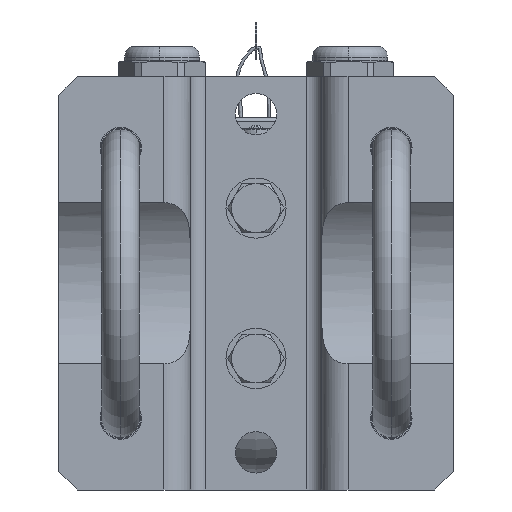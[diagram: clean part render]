
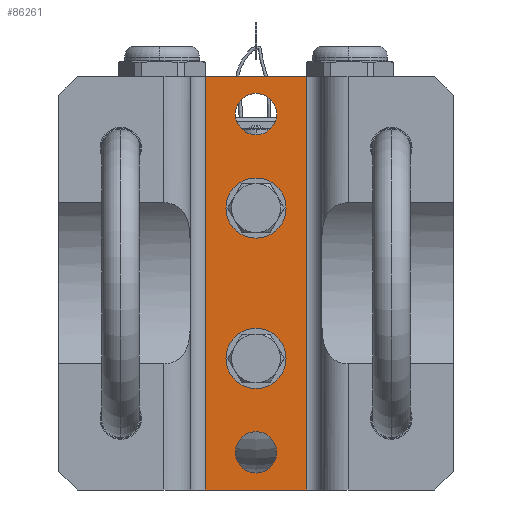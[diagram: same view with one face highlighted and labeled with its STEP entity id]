
A CAD part, front view. The second image highlights one B-rep face of the part: STEP entity #86261.
In plain terms, the highlighted planar face has unit normal (0, -1, 0).
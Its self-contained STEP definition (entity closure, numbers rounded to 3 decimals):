
#84088=DIRECTION('',(-1.,0.,0.));
#84089=VECTOR('',#84088,27.);
#84090=CARTESIAN_POINT('',(13.5,-30.,55.));
#84091=LINE('',#84090,#84089);
#84429=DIRECTION('',(-1.,0.,0.));
#84430=VECTOR('',#84429,27.);
#84431=CARTESIAN_POINT('',(13.5,-30.,-55.));
#84432=LINE('',#84431,#84430);
#84823=DIRECTION('',(0.,0.,-1.));
#84824=VECTOR('',#84823,110.);
#84825=CARTESIAN_POINT('',(-13.5,-30.,55.));
#84826=LINE('',#84825,#84824);
#84827=DIRECTION('',(0.,0.,-1.));
#84828=VECTOR('',#84827,110.);
#84829=CARTESIAN_POINT('',(13.5,-30.,55.));
#84830=LINE('',#84829,#84828);
#84831=CARTESIAN_POINT('',(0.,-30.,20.));
#84832=DIRECTION('',(0.,1.,0.));
#84833=DIRECTION('',(-1.,0.,0.));
#84834=AXIS2_PLACEMENT_3D('',#84831,#84832,#84833);
#84836=CARTESIAN_POINT('',(0.,-30.,20.));
#84837=DIRECTION('',(0.,1.,0.));
#84838=DIRECTION('',(1.,0.,0.));
#84839=AXIS2_PLACEMENT_3D('',#84836,#84837,#84838);
#84841=CARTESIAN_POINT('',(0.,-30.,-20.));
#84842=DIRECTION('',(0.,1.,0.));
#84843=DIRECTION('',(-1.,0.,0.));
#84844=AXIS2_PLACEMENT_3D('',#84841,#84842,#84843);
#84846=CARTESIAN_POINT('',(0.,-30.,-20.));
#84847=DIRECTION('',(0.,1.,0.));
#84848=DIRECTION('',(1.,0.,0.));
#84849=AXIS2_PLACEMENT_3D('',#84846,#84847,#84848);
#84851=CARTESIAN_POINT('',(0.,-30.,45.));
#84852=DIRECTION('',(0.,-1.,0.));
#84853=DIRECTION('',(-1.,0.,0.));
#84854=AXIS2_PLACEMENT_3D('',#84851,#84852,#84853);
#84856=CARTESIAN_POINT('',(0.,-30.,45.));
#84857=DIRECTION('',(0.,-1.,0.));
#84858=DIRECTION('',(1.,0.,0.));
#84859=AXIS2_PLACEMENT_3D('',#84856,#84857,#84858);
#84861=CARTESIAN_POINT('',(0.,-30.,-45.));
#84862=DIRECTION('',(0.,-1.,0.));
#84863=DIRECTION('',(-1.,0.,0.));
#84864=AXIS2_PLACEMENT_3D('',#84861,#84862,#84863);
#84866=CARTESIAN_POINT('',(0.,-30.,-45.));
#84867=DIRECTION('',(0.,-1.,0.));
#84868=DIRECTION('',(1.,0.,0.));
#84869=AXIS2_PLACEMENT_3D('',#84866,#84867,#84868);
#84943=CARTESIAN_POINT('',(-13.5,-30.,55.));
#84944=CARTESIAN_POINT('',(-13.5,-30.,-55.));
#84945=VERTEX_POINT('',#84943);
#84946=VERTEX_POINT('',#84944);
#84947=CARTESIAN_POINT('',(13.5,-30.,55.));
#84948=CARTESIAN_POINT('',(13.5,-30.,-55.));
#84949=VERTEX_POINT('',#84947);
#84950=VERTEX_POINT('',#84948);
#85127=CARTESIAN_POINT('',(-5.5,-30.,45.));
#85128=CARTESIAN_POINT('',(5.5,-30.,45.));
#85129=VERTEX_POINT('',#85127);
#85130=VERTEX_POINT('',#85128);
#85135=CARTESIAN_POINT('',(-5.5,-30.,-45.));
#85136=CARTESIAN_POINT('',(5.5,-30.,-45.));
#85137=VERTEX_POINT('',#85135);
#85138=VERTEX_POINT('',#85136);
#85143=CARTESIAN_POINT('',(-5.,-30.,20.));
#85144=CARTESIAN_POINT('',(5.,-30.,20.));
#85145=VERTEX_POINT('',#85143);
#85146=VERTEX_POINT('',#85144);
#85147=CARTESIAN_POINT('',(-5.,-30.,-20.));
#85148=CARTESIAN_POINT('',(5.,-30.,-20.));
#85149=VERTEX_POINT('',#85147);
#85150=VERTEX_POINT('',#85148);
#86225=CARTESIAN_POINT('',(17.5,-30.,55.));
#86226=DIRECTION('',(0.,-1.,0.));
#86227=DIRECTION('',(-1.,0.,0.));
#86228=AXIS2_PLACEMENT_3D('',#86225,#86226,#86227);
#86229=PLANE('',#86228);
#86231=ORIENTED_EDGE('',*,*,#86230,.F.);
#86232=ORIENTED_EDGE('',*,*,#85194,.F.);
#86234=ORIENTED_EDGE('',*,*,#86233,.T.);
#86235=ORIENTED_EDGE('',*,*,#85561,.T.);
#86236=EDGE_LOOP('',(#86231,#86232,#86234,#86235));
#86237=FACE_OUTER_BOUND('',#86236,.F.);
#86238=ORIENTED_EDGE('',*,*,#86215,.F.);
#86240=ORIENTED_EDGE('',*,*,#86239,.F.);
#86241=EDGE_LOOP('',(#86238,#86240));
#86242=FACE_BOUND('',#86241,.F.);
#86244=ORIENTED_EDGE('',*,*,#86243,.F.);
#86246=ORIENTED_EDGE('',*,*,#86245,.F.);
#86247=EDGE_LOOP('',(#86244,#86246));
#86248=FACE_BOUND('',#86247,.F.);
#86250=ORIENTED_EDGE('',*,*,#86249,.T.);
#86252=ORIENTED_EDGE('',*,*,#86251,.T.);
#86253=EDGE_LOOP('',(#86250,#86252));
#86254=FACE_BOUND('',#86253,.F.);
#86256=ORIENTED_EDGE('',*,*,#86255,.T.);
#86258=ORIENTED_EDGE('',*,*,#86257,.T.);
#86259=EDGE_LOOP('',(#86256,#86258));
#86260=FACE_BOUND('',#86259,.F.);
#86261=ADVANCED_FACE('',(#86237,#86242,#86248,#86254,#86260),#86229,.T.);
#84835=CIRCLE('',#84834,5.);
#84840=CIRCLE('',#84839,5.);
#84845=CIRCLE('',#84844,5.);
#84850=CIRCLE('',#84849,5.);
#84855=CIRCLE('',#84854,5.5);
#84860=CIRCLE('',#84859,5.5);
#84865=CIRCLE('',#84864,5.5);
#84870=CIRCLE('',#84869,5.5);
#85194=EDGE_CURVE('',#84949,#84945,#84091,.T.);
#85561=EDGE_CURVE('',#84950,#84946,#84432,.T.);
#86215=EDGE_CURVE('',#85145,#85146,#84835,.T.);
#86230=EDGE_CURVE('',#84945,#84946,#84826,.T.);
#86233=EDGE_CURVE('',#84949,#84950,#84830,.T.);
#86239=EDGE_CURVE('',#85146,#85145,#84840,.T.);
#86243=EDGE_CURVE('',#85149,#85150,#84845,.T.);
#86245=EDGE_CURVE('',#85150,#85149,#84850,.T.);
#86249=EDGE_CURVE('',#85129,#85130,#84855,.T.);
#86251=EDGE_CURVE('',#85130,#85129,#84860,.T.);
#86255=EDGE_CURVE('',#85137,#85138,#84865,.T.);
#86257=EDGE_CURVE('',#85138,#85137,#84870,.T.);
